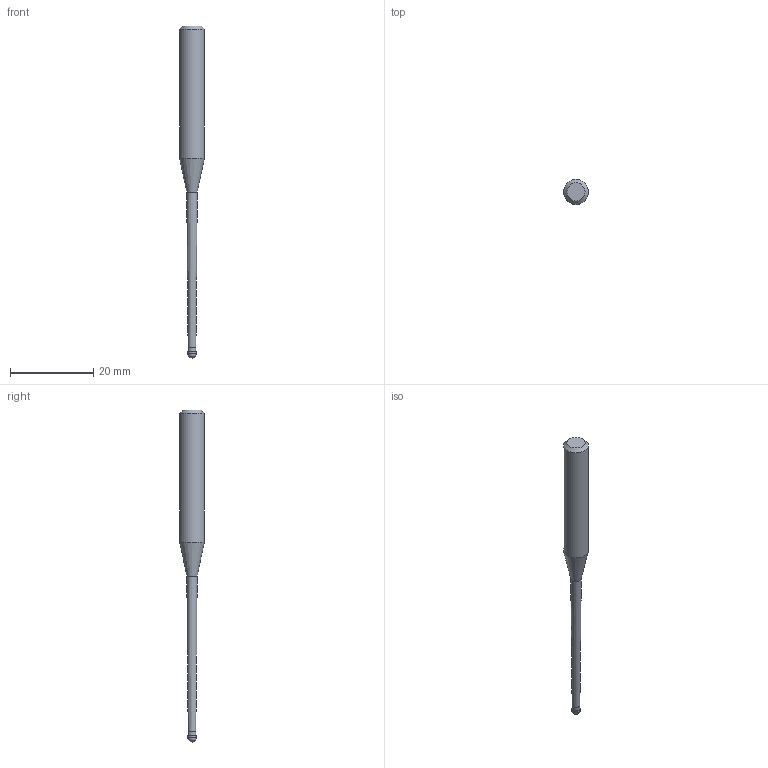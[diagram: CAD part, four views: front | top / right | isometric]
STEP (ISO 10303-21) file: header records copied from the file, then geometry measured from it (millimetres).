
FILE_DESCRIPTION((''),'2;1');
FILE_NAME('C:\Users\nsx150\AppData\Local\Temp\Mastercam 2021\E0ENTZRV18\TEMP.step','2021-09-02T09:56:45',(''),(''),'STEP Write','Mastercam 2021 ... CNC Software, Inc.','');
FILE_SCHEMA(('AUTOMOTIVE_DESIGN'));
Length unit declared in the file: millimetre
Products named in the file (1): None
Bounding box: 6 x 6 x 80 mm (x, y, z)
Volume: 1169.3 mm3; surface area: 1012.1 mm2
Topology: 2 solids, 2 shells, 10 faces, 16 edges, 9 vertices
Faces by surface type: plane 3, cylinder 3, cone 3, sphere 1
Full cylindrical faces by diameter (mm): 1.875 x1, 2 x1, 6 x1
Entity records: 232 total; most frequent: DIRECTION 40, CARTESIAN_POINT 28, AXIS2_PLACEMENT_3D 20, ORIENTED_EDGE 16, EDGE_LOOP 16, STYLED_ITEM 13, ADVANCED_FACE 10, FACE_BOUND 9
